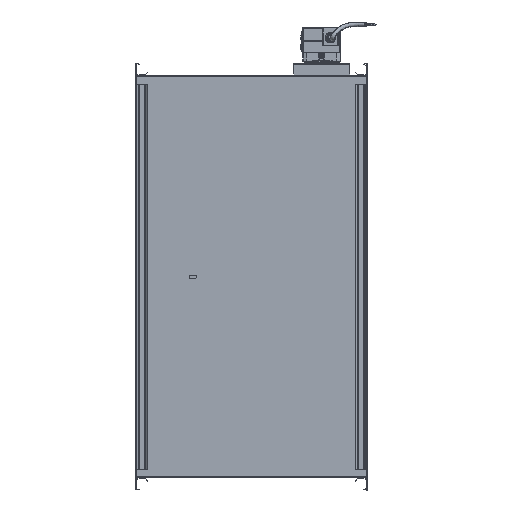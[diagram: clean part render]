
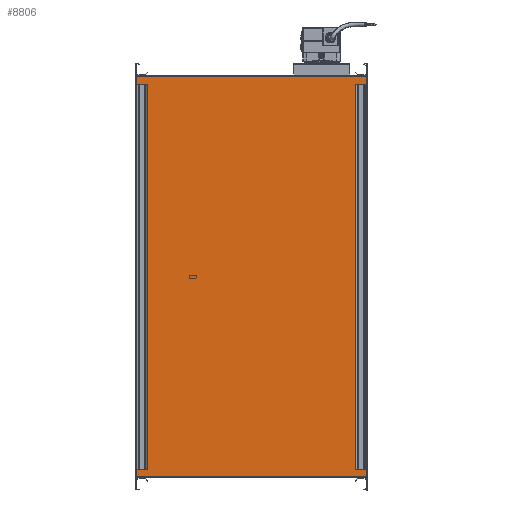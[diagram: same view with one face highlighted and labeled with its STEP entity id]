
A CAD part, front view. The second image highlights one B-rep face of the part: STEP entity #8806.
In plain terms, the highlighted planar face has unit normal (0, -1, 0).
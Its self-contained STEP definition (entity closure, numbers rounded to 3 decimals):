
#4828 = FACE_OUTER_BOUND ( 'NONE', #54931, .T. ) ;
#5298 = CARTESIAN_POINT ( 'NONE',  ( -244.423, -335.848, 752. ) ) ;
#6166 = CARTESIAN_POINT ( 'NONE',  ( -244.423, -335.848, 752. ) ) ;
#6237 = DIRECTION ( 'NONE',  ( 0., 0., -1. ) ) ;
#6397 = VECTOR ( 'NONE', #71925, 1000. ) ;
#8806 = ADVANCED_FACE ( 'NONE', ( #4828 ), #57555, .T. ) ;
#18338 = CARTESIAN_POINT ( 'NONE',  ( -244.423, -335.848, 752. ) ) ;
#21832 = CARTESIAN_POINT ( 'NONE',  ( 155.577, -335.848, 752. ) ) ;
#23780 = EDGE_CURVE ( 'NONE', #68863, #91687, #36496, .T. ) ;
#24724 = ORIENTED_EDGE ( 'NONE', *, *, #31334, .F. ) ;
#26915 = DIRECTION ( 'NONE',  ( 0., -1., 0. ) ) ;
#27708 = VECTOR ( 'NONE', #65772, 1000. ) ;
#28718 = LINE ( 'NONE', #6166, #6397 ) ;
#30234 = CARTESIAN_POINT ( 'NONE',  ( 155.577, -335.848, 1448. ) ) ;
#31334 = EDGE_CURVE ( 'NONE', #61950, #67503, #42973, .T. ) ;
#34772 = ORIENTED_EDGE ( 'NONE', *, *, #85145, .T. ) ;
#36496 = LINE ( 'NONE', #44161, #27708 ) ;
#38039 = CARTESIAN_POINT ( 'NONE',  ( -244.423, -335.848, 1448. ) ) ;
#38101 = VECTOR ( 'NONE', #65037, 1000. ) ;
#38674 = CARTESIAN_POINT ( 'NONE',  ( 155.577, -335.848, 752. ) ) ;
#42973 = LINE ( 'NONE', #21832, #38101 ) ;
#44161 = CARTESIAN_POINT ( 'NONE',  ( -244.423, -335.848, 752. ) ) ;
#45182 = DIRECTION ( 'NONE',  ( 1., 0., 0. ) ) ;
#52330 = LINE ( 'NONE', #82589, #92679 ) ;
#54931 = EDGE_LOOP ( 'NONE', ( #24724, #85198, #74003, #34772 ) ) ;
#57555 = PLANE ( 'NONE',  #85836 ) ;
#61586 = EDGE_CURVE ( 'NONE', #68863, #61950, #52330, .T. ) ;
#61950 = VERTEX_POINT ( 'NONE', #30234 ) ;
#65037 = DIRECTION ( 'NONE',  ( 0., 0., -1. ) ) ;
#65772 = DIRECTION ( 'NONE',  ( 0., 0., -1. ) ) ;
#67503 = VERTEX_POINT ( 'NONE', #38674 ) ;
#68863 = VERTEX_POINT ( 'NONE', #38039 ) ;
#71925 = DIRECTION ( 'NONE',  ( 1., 0., 0. ) ) ;
#74003 = ORIENTED_EDGE ( 'NONE', *, *, #23780, .T. ) ;
#82589 = CARTESIAN_POINT ( 'NONE',  ( -244.423, -335.848, 1448. ) ) ;
#85145 = EDGE_CURVE ( 'NONE', #91687, #67503, #28718, .T. ) ;
#85198 = ORIENTED_EDGE ( 'NONE', *, *, #61586, .F. ) ;
#85836 = AXIS2_PLACEMENT_3D ( 'NONE', #5298, #26915, #6237 ) ;
#91687 = VERTEX_POINT ( 'NONE', #18338 ) ;
#92679 = VECTOR ( 'NONE', #45182, 1000. ) ;
